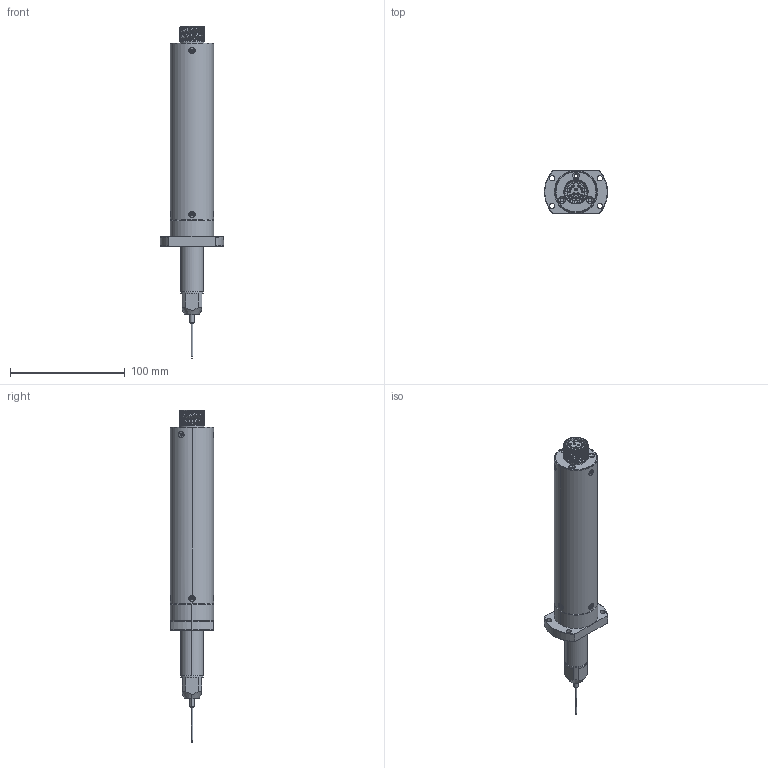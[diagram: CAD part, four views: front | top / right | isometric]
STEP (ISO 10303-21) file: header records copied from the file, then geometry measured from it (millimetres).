
FILE_DESCRIPTION (( 'STEP AP203' ), '1' );
FILE_NAME ('EXT-MDA2201-E+C.STEP', '2023-01-27T02:24:35', ( '' ), ( '' ), 'SwSTEP 2.0', 'SolidWorks 2021', '' );
FILE_SCHEMA (( 'CONFIG_CONTROL_DESIGN' ));
Length unit declared in the file: millimetre
Products named in the file (1): EXT-MDA2201-E+C
Bounding box: 55 x 37.6 x 289.05 mm (x, y, z)
Surface area: 36442.8 mm2 (no closed solid volume)
Topology: 0 solids, 43 shells, 406 faces, 1377 edges, 979 vertices
Faces by surface type: cylinder 153, plane 150, cone 84, torus 10, bspline 9
Entity records: 20855 total; most frequent: CARTESIAN_POINT 9426, DIRECTION 2258, ORIENTED_EDGE 2185, EDGE_CURVE 1377, VERTEX_POINT 979, AXIS2_PLACEMENT_3D 876, VECTOR 506, LINE 506
